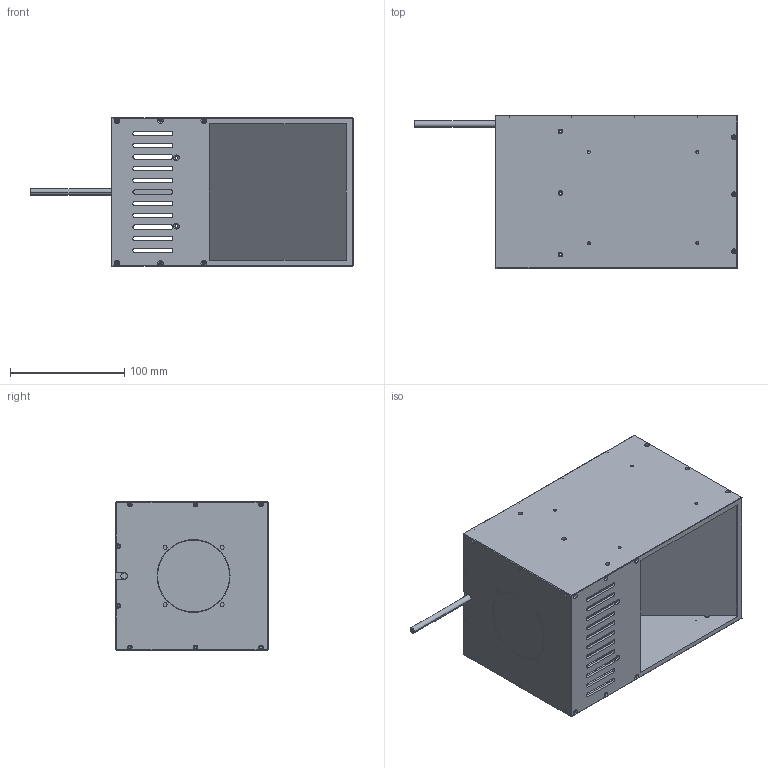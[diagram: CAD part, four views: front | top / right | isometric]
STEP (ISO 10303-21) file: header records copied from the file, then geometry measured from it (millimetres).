
FILE_DESCRIPTION((''),'2;1');
FILE_NAME('LS-LCDM-120-120','2019-09-20T',('LumaSpec Vision'),('LumaSpec Vision'),'PRO/ENGINEER BY PARAMETRIC TECHNOLOGY CORPORATION, 2010100','PRO/ENGINEER BY PARAMETRIC TECHNOLOGY CORPORATION, 2010100','');
FILE_SCHEMA(('CONFIG_CONTROL_DESIGN'));
Length unit declared in the file: millimetre
Products named in the file (3): LS-LCDM-120-120-2; LS-LCDM-120-120-1_ASM; LS-LCDM-120-120-W_ASM
Assembly tree (2 placements, depth 3):
  LS-LCDM-120-120-W_ASM
    LS-LCDM-120-120-1_ASM
      LS-LCDM-120-120-2
Bounding box: 282.62 x 134 x 130 mm (x, y, z)
Volume: 534162.8 mm3; surface area: 336297 mm2
Topology: 6 solids, 6 shells, 691 faces, 1809 edges, 1100 vertices
Faces by surface type: cylinder 311, plane 253, cone 127
Entity records: 20813 total; most frequent: DIRECTION 3763, CARTESIAN_POINT 3640, ORIENTED_EDGE 3418, EDGE_CURVE 1709, AXIS2_PLACEMENT_3D 1399, VERTEX_POINT 1090, VECTOR 965, LINE 965
